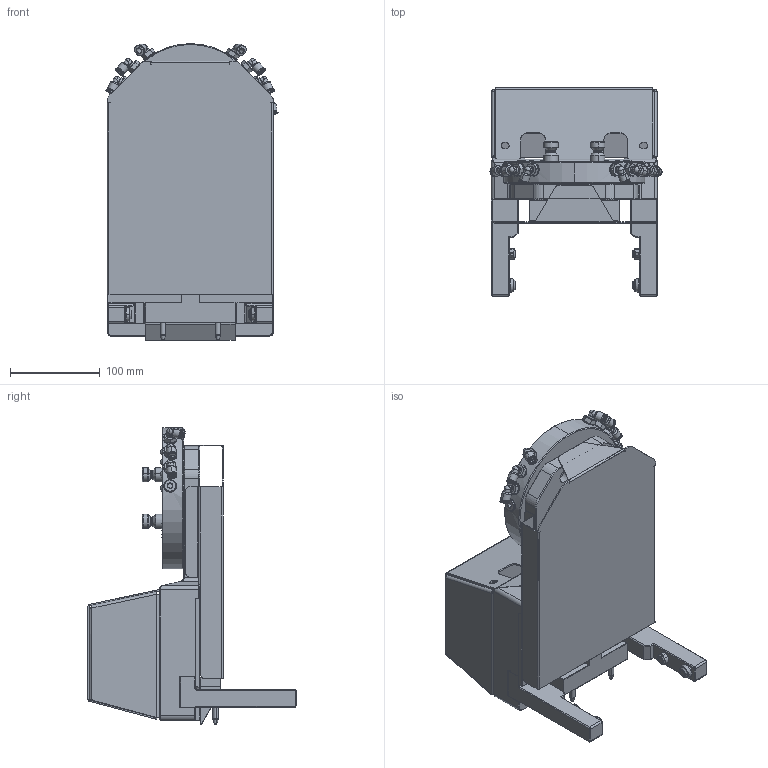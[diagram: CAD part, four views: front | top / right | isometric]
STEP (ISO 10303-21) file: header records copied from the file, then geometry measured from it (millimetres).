
FILE_DESCRIPTION (( 'STEP AP214' ), '1' );
FILE_NAME ('64850.STEP', '2020-06-17T11:35:30', ( '' ), ( '' ), 'SwSTEP 2.0', 'SolidWorks 2019', '' );
FILE_SCHEMA (( 'AUTOMOTIVE_DESIGN' ));
Length unit declared in the file: millimetre
Products named in the file (2): 64850
Bounding box: 191.37 x 231.63 x 330.27 mm (x, y, z)
Volume: 2368224.9 mm3; surface area: 668560.4 mm2
Topology: 54 solids, 54 shells, 2577 faces, 6054 edges, 3621 vertices
Faces by surface type: plane 880, cylinder 817, cone 586, torus 141, bspline 108, sphere 45
Entity records: 110734 total; most frequent: CARTESIAN_POINT 23526, DIRECTION 12550, ORIENTED_EDGE 11786, EDGE_CURVE 5893, AXIS2_PLACEMENT_3D 4890, VERTEX_POINT 3597, EDGE_LOOP 2862, LINE 2770
